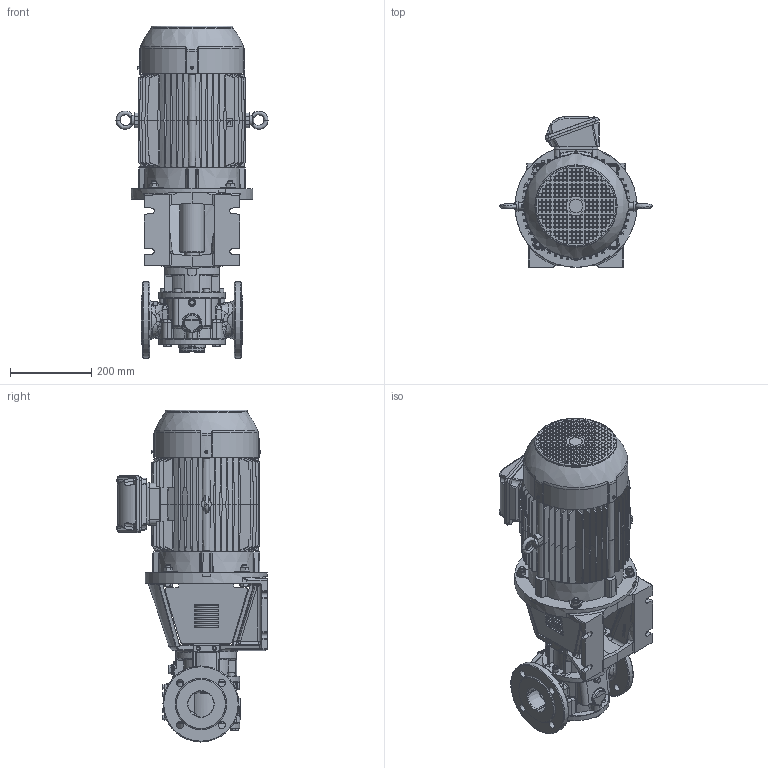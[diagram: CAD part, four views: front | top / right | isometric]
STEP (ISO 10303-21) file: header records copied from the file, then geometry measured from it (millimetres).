
FILE_DESCRIPTION(/* description */ (''),/* implementation_level */ '2;1');
FILE_NAME(/* name */ 'C:\V\JPP\Designs\GEAR PUMPS\PRODUCT ENGINEERING\EUROPE\TG BLOC\TG BLOC_23-65_R5_O_NRV-_132M-STEP.stp',/* time_stamp */ '2021-03-18T14:55:59+01:00',/* author */ ('A77THR'),/* organization */ (''),/* preprocessor_version */ 'ST-DEVELOPER v18.1',/* originating_system */ 'Autodesk Inventor 2020',/* authorisation */ '');
FILE_SCHEMA (('AUTOMOTIVE_DESIGN { 1 0 10303 214 3 1 1 }'));
Products named in the file (1): TG BLOC_23-65_R5_O_NRV-_132M
Bounding box: 373.96 x 370.15 x 816.8 mm (x, y, z)
Volume: 27228746.6 mm3; surface area: 1595124.3 mm2
Topology: 1 solids, 1 shells, 5118 faces, 13083 edges, 8266 vertices
Faces by surface type: plane 2927, bspline 976, cylinder 666, cone 372, torus 130, sphere 47
Full cylindrical faces by diameter (mm): 4 x1, 4.5 x4, 4.917 x4, 5 x3, 5.459 x14, 6 x17, 6.647 x1, 7 x14, 8.376 x5, 8.5 x2, 8.7 x14, 9.188 x4, 10 x12, 10.5 x1, 11.445 x2, 11.5 x4, 12 x8, 13 x4, 15.011 x3, 15.4 x10, 16 x10, 17.2 x4, 17.9 x3, 18 x11, 19 x3, 21.939 x1, 25.9 x1, 26 x1, 29.4 x1, 30 x1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
Entity records: 215885 total; most frequent: CARTESIAN_POINT 94801, ORIENTED_EDGE 25918, DIRECTION 21282, EDGE_CURVE 12959, VERTEX_POINT 8266, AXIS2_PLACEMENT_3D 7168, LINE 6946, VECTOR 6946
